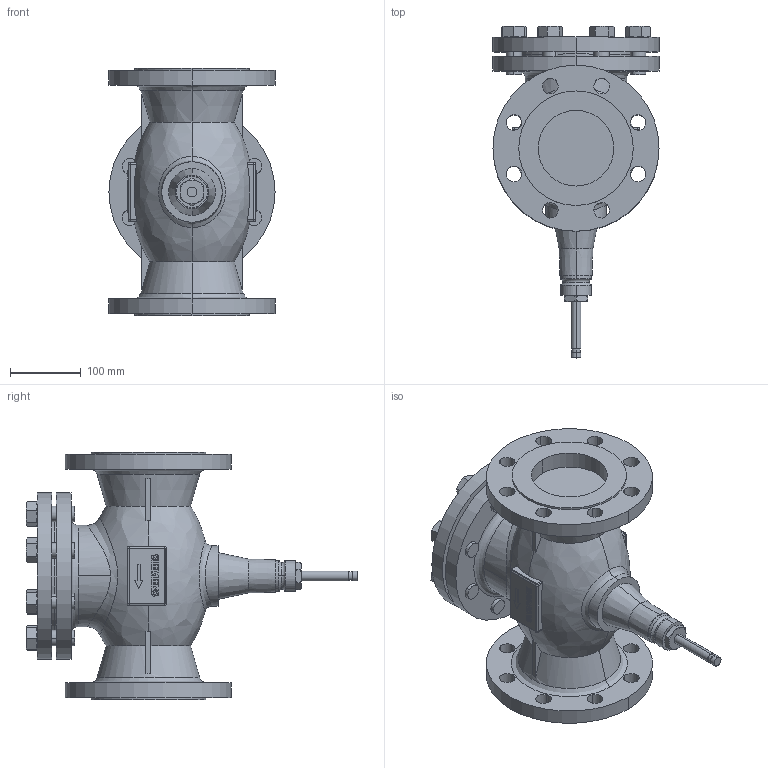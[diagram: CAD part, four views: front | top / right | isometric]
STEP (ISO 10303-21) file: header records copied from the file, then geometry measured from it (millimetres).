
FILE_DESCRIPTION((''),'2;1');
FILE_NAME('000196.stp','2006-09-29T17:20:17',(''),(''),'Mechanical Desktop 2006','Mechanical Desktop 2006',', , ');
FILE_SCHEMA(('AUTOMOTIVE_DESIGN { 1 2 10303 214 0 1 1 1 }'));
Length unit declared in the file: millimetre
Products named in the file (1): Product
Bounding box: 235 x 469.5 x 350 mm (x, y, z)
Volume: 9614877 mm3; surface area: 740510.2 mm2
Topology: 42 solids, 42 shells, 685 faces, 1749 edges, 1147 vertices
Faces by surface type: cylinder 278, plane 233, bspline 152, cone 10, sphere 8, torus 4
Entity records: 23005 total; most frequent: CARTESIAN_POINT 6761, ORIENTED_EDGE 3482, DIRECTION 3250, EDGE_CURVE 1741, AXIS2_PLACEMENT_3D 1197, VERTEX_POINT 1147, VECTOR 856, LINE 856
